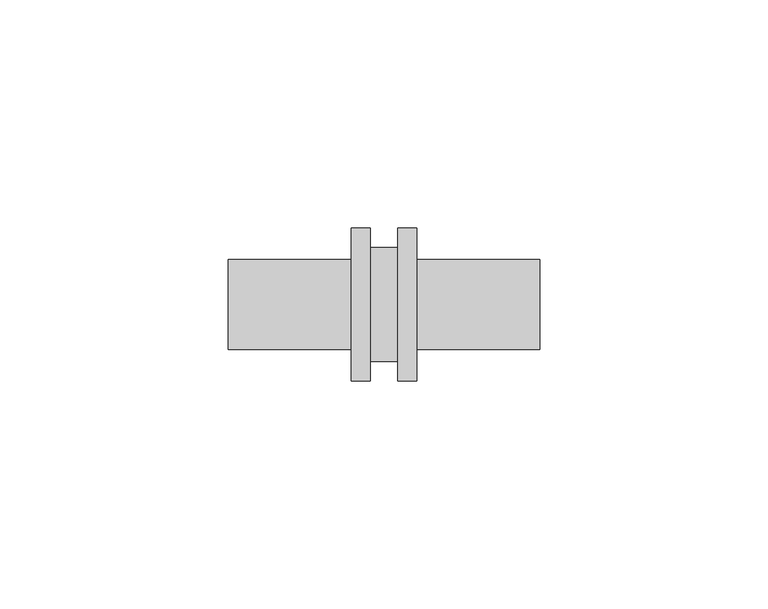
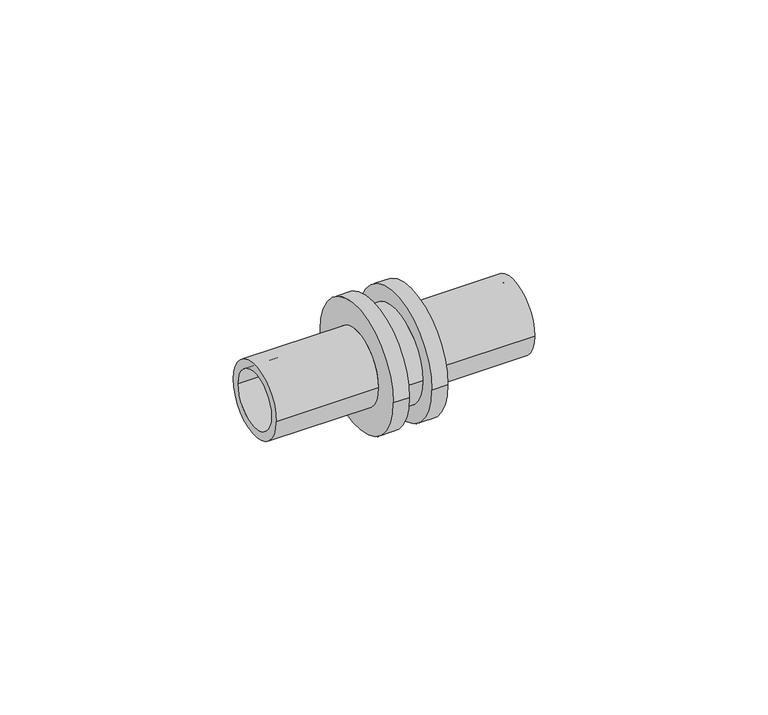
"""IFC4 building model written with IfcOpenShell, lengths in millimetres: pipe fitting geometry, RAUTITAN_Union_LX : RTI LX U DE."""

import ifcopenshell
import ifcopenshell.guid

model = None  # the IFC model being written
_history = None  # IfcOwnerHistory: only IFC2X3 demands one
_inside = {}  # id of a spatial element -> (the spatial element, [elements in it])
_under = {}  # id of a project, library or spatial element -> (it, [spatial elements below it])
_declared = {}  # id of a project -> (the project, [libraries it declares])
_typed = {}  # id of a type object -> (the type object, [elements of that type])
_made_of = {}  # id of a material, layer set ... -> (it, [elements and type objects made of it])


def new_model(schema):
    """Start an empty IFC model of exactly this schema.

    Asked for "IFC4X3", IfcOpenShell would pick the latest addendum, in which some entities
    have other attributes; the version numbers below select the first issue.
    IFC2X3 requires an IfcOwnerHistory on every rooted entity: one is made here for all.
    """
    global model, _history
    if schema == "IFC4X3":
        model = ifcopenshell.file(schema_version=(4, 3, 0, 0))
    else:
        model = ifcopenshell.file(schema=schema)
    _inside.clear()
    _under.clear()
    _declared.clear()
    _typed.clear()
    _made_of.clear()
    _history = None
    if model.schema == "IFC2X3":
        org = make("IfcOrganization", Name="unknown")
        user = make(
            "IfcPersonAndOrganization",
            ThePerson=make("IfcPerson", FamilyName="unknown"),
            TheOrganization=org,
        )
        app = make(
            "IfcApplication",
            ApplicationDeveloper=org,
            Version="unknown",
            ApplicationFullName="unknown",
            ApplicationIdentifier="unknown",
        )
        _history = make(
            "IfcOwnerHistory",
            OwningUser=user,
            OwningApplication=app,
            ChangeAction="ADDED",
            CreationDate=0,
        )
    return model


def make(cls, **values):
    """One entity of the class cls with the attributes given. An attribute that is None is left unset."""
    return model.create_entity(
        cls, **{name: value for name, value in values.items() if value is not None}
    )


def rooted(cls, **values):
    """An entity with a GlobalId (a new one), such as an element, a storey or a relation."""
    return make(cls, GlobalId=ifcopenshell.guid.new(), OwnerHistory=_history, **values)


def si_unit(unit_type, name, prefix=None):
    """IfcSIUnit, for example si_unit("LENGTHUNIT", "METRE", prefix="MILLI")."""
    return make("IfcSIUnit", UnitType=unit_type, Prefix=prefix, Name=name)


def assignment(units):
    """IfcUnitAssignment: the units of a project."""
    return None if units is None else make("IfcUnitAssignment", Units=units)


def point(xyz):
    """IfcCartesianPoint."""
    return None if xyz is None else make("IfcCartesianPoint", Coordinates=xyz)


def direction(xyz):
    """IfcDirection."""
    return None if xyz is None else make("IfcDirection", DirectionRatios=xyz)


def frame(location, z_axis=None, x_axis=None):
    """IfcAxis2Placement3D, a coordinate frame: its origin and axes. An axis left out is left unset."""
    return make(
        "IfcAxis2Placement3D",
        Location=point(location),
        Axis=direction(z_axis),
        RefDirection=direction(x_axis),
    )


def origin():
    """The frame at (0, 0, 0) with its axes left unset."""
    return frame((0.0, 0.0, 0.0))


def place(relative_to, where):
    """IfcLocalPlacement: puts the frame where relative to a parent placement (None: the world)."""
    return make(
        "IfcLocalPlacement", PlacementRelTo=relative_to, RelativePlacement=where
    )


def context(
    kind, dimensions, precision=None, world=None, true_north=None, identifier=None
):
    """IfcGeometricRepresentationContext, for example the 3D "Model" context."""
    return make(
        "IfcGeometricRepresentationContext",
        ContextIdentifier=identifier,
        ContextType=kind,
        CoordinateSpaceDimension=dimensions,
        Precision=precision,
        WorldCoordinateSystem=world,
        TrueNorth=true_north,
    )


def project(units=None, contexts=None):
    """IfcProject with its units and contexts."""
    return rooted(
        "IfcProject",
        Name="project",
        RepresentationContexts=contexts,
        UnitsInContext=assignment(units),
    )


def spatial(cls, under=None, at=None, **own):
    """A site, building, storey or space (cls), placed at a placement, below another one or the project."""
    s = rooted(cls, ObjectPlacement=at, **own)
    if under is not None:
        _under.setdefault(under.id(), (under, []))[1].append(s)
    return s


def polyline(points):
    """IfcPolyline through the points."""
    return make("IfcPolyline", Points=[point(p) for p in points])


def circle_curve(where, radius):
    """IfcCircle in the frame where."""
    return make("IfcCircle", Position=where, Radius=radius)


def shape(context_of_items, identifier, shape_type, items):
    """IfcShapeRepresentation: the items that make up one representation, for example the "Body"."""
    return make(
        "IfcShapeRepresentation",
        ContextOfItems=context_of_items,
        RepresentationIdentifier=identifier,
        RepresentationType=shape_type,
        Items=items,
    )


def source(mapping_origin, context_of_items, identifier, shape_type, items):
    """IfcRepresentationMap: a shape defined once, which mapped items show again and again."""
    return make(
        "IfcRepresentationMap",
        MappingOrigin=mapping_origin,
        MappedRepresentation=shape(context_of_items, identifier, shape_type, items),
    )


def transform(
    local_origin,
    x_axis=None,
    y_axis=None,
    z_axis=None,
    scale=None,
    scale2=None,
    scale3=None,
    uniform=True,
):
    """IfcCartesianTransformationOperator3D, or its non-uniform kind. x_axis, y_axis, z_axis: its Axis1, 2, 3."""
    if uniform:
        return make(
            "IfcCartesianTransformationOperator3D",
            Axis1=direction(x_axis),
            Axis2=direction(y_axis),
            LocalOrigin=point(local_origin),
            Scale=scale,
            Axis3=direction(z_axis),
        )
    return make(
        "IfcCartesianTransformationOperator3DnonUniform",
        Axis1=direction(x_axis),
        Axis2=direction(y_axis),
        LocalOrigin=point(local_origin),
        Scale=scale,
        Axis3=direction(z_axis),
        Scale2=scale2,
        Scale3=scale3,
    )


def mapped(mapping_source, mapping_target):
    """IfcMappedItem: shows the shape of a source again, moved by a transform."""
    return make(
        "IfcMappedItem", MappingSource=mapping_source, MappingTarget=mapping_target
    )


def made_of(thing, what):
    """Note that an element or type object is made of a material, layer set ...; save() writes the relation."""
    if what is not None:
        _made_of.setdefault(what.id(), (what, []))[1].append(thing)
    return thing


def element(
    cls,
    number,
    at=None,
    inside=None,
    cuts=None,
    type_object=None,
    material=None,
    context=None,
    identifier="Body",
    shape_type=None,
    held_by="IfcProductDefinitionShape",
    body=None,
    shapes=None,
    **own,
):
    """One element of the class cls, such as IfcWall. Its Tag is "e" and its number.

    at: its placement. inside: the storey or other place that contains it. cuts: it is an
    opening in that element (IfcRelVoidsElement). A single representation is given by context,
    identifier, shape_type and body (its items); several are given by shapes. held_by: the class
    of the entity that holds the representations. save() writes the other relations.
    """
    e = rooted(cls, Tag="e%d" % number, ObjectPlacement=at, **own)
    if body is not None:
        shapes = [shape(context, identifier, shape_type, body)]
    if shapes is not None:
        e.Representation = make(held_by, Representations=shapes)
    if inside is not None:
        _inside.setdefault(inside.id(), (inside, []))[1].append(e)
    if cuts is not None:
        rooted(
            "IfcRelVoidsElement", RelatingBuildingElement=cuts, RelatedOpeningElement=e
        )
    if type_object is not None:
        _typed.setdefault(type_object.id(), (type_object, []))[1].append(e)
    return made_of(e, material)


def aggregate(whole, parts):
    """IfcRelAggregates: a whole, such as a stair, and the parts it consists of."""
    return rooted("IfcRelAggregates", RelatingObject=whole, RelatedObjects=parts)


def save(model, path):
    """Write the relations noted so far, then the file.

    IfcRelAggregates (storeys below a building ...), IfcRelContainedInSpatialStructure (elements
    in a storey), IfcRelDefinesByType, IfcRelAssociatesMaterial and IfcRelDeclares: one each for
    every whole, place, type object, material and project.
    """
    for whole, parts in _under.values():
        aggregate(whole, parts)
    for where, things in _inside.values():
        rooted(
            "IfcRelContainedInSpatialStructure",
            RelatedElements=things,
            RelatingStructure=where,
        )
    for kind, things in _typed.values():
        rooted("IfcRelDefinesByType", RelatedObjects=things, RelatingType=kind)
    for what, things in _made_of.values():
        rooted("IfcRelAssociatesMaterial", RelatedObjects=things, RelatingMaterial=what)
    for by, libraries in _declared.values():
        rooted("IfcRelDeclares", RelatingContext=by, RelatedDefinitions=libraries)
    model.write(path)


def plane_surface(at):
    """IfcPlane: the flat surface through the origin of the frame at, square to its z axis."""
    return make("IfcPlane", Position=at)


def cylinder_surface(at, radius):
    """IfcCylindricalSurface: all points at the distance radius from the z axis of the frame at."""
    return make("IfcCylindricalSurface", Position=at, Radius=radius)


def revolved_surface(curve, axis_point, axis_direction):
    """IfcSurfaceOfRevolution: the curve turned about the line through axis_point along axis_direction."""
    return make(
        "IfcSurfaceOfRevolution",
        SweptCurve=make("IfcArbitraryOpenProfileDef", ProfileType="CURVE", Curve=curve),
        AxisPosition=make("IfcAxis1Placement", Location=point(axis_point), Axis=direction(axis_direction)),
    )


def advanced_brep(points, edges, surfaces, faces):
    """IfcAdvancedBrep: a solid bounded by faces that lie on surfaces and meet in shared edges.

    An edge is (start, end): straight between two places in points (the first is 0);
    or (start, end, curve); or (start, end, curve, False) where it runs against its curve.
    A face is (place in surfaces, loops), or (place, loops, False) where it looks against
    its surface's normal. A loop lists edges by number (the first is 1), with a minus sign
    where the edge is run from its end to its start. The first loop is the outer one.
    """
    corners = [point(p) for p in points]
    vertices = [make("IfcVertexPoint", VertexGeometry=c) for c in corners]
    made = []
    for start, end, *more in edges:
        made.append(
            make(
                "IfcEdgeCurve",
                EdgeStart=vertices[start],
                EdgeEnd=vertices[end],
                EdgeGeometry=more[0] if more else make("IfcPolyline", Points=[corners[start], corners[end]]),
                SameSense=more[1] if len(more) > 1 else True,
            )
        )
    hull = []
    for where, loops, *sense in faces:
        bounds = []
        for j, loop in enumerate(loops):
            ring = [make("IfcOrientedEdge", EdgeElement=made[abs(k) - 1], Orientation=k > 0) for k in loop]
            bounds.append(
                make(
                    "IfcFaceOuterBound" if j == 0 else "IfcFaceBound",
                    Bound=make("IfcEdgeLoop", EdgeList=ring),
                    Orientation=True,
                )
            )
        hull.append(make("IfcAdvancedFace", Bounds=bounds, FaceSurface=surfaces[where], SameSense=sense[0] if sense else True))
    return make("IfcAdvancedBrep", Outer=make("IfcClosedShell", CfsFaces=hull))


def pipe_fitting_88740129(model_context):
    return source(origin(), model_context, "Body", "AdvancedBrep", [
        advanced_brep(
        [(-34.2, 7.6, 0.0), (-34.2, -7.6, 0.0), (34.2, -7.6, 0.0), (34.2, 7.6, 0.0), (-7.2, 9.9, 0.0), (-7.2, -9.9, 0.0), (-34.2, -9.9, 0.0), (-34.2, 9.9, 0.0), (-3.0, 16.8, 0.0), (-3.0, -16.8, 0.0), (-7.2, -16.8, 0.0), (-7.2, 16.8, 0.0), (3.0, 12.5, 0.0), (3.0, -12.5, 0.0), (-3.0, -12.5, 0.0), (-3.0, 12.5, 0.0), (7.2, 16.8, 0.0), (7.2, -16.8, 0.0), (3.0, -16.8, 0.0), (3.0, 16.8, 0.0), (34.2, 9.9, 0.0), (34.2, -9.9, 0.0), (7.2, -9.9, 0.0), (7.2, 9.9, 0.0)],
        [
            (0, 1, circle_curve(frame((-34.2, 0.0, 0.0), z_axis=(-1.0, 0.0, 0.0), x_axis=(0.0, -1.0, 0.0)), 7.6)),
            (1, 2),
            (2, 3, circle_curve(frame((34.2, 0.0, 0.0), z_axis=(1.0, 0.0, 0.0), x_axis=(0.0, -1.0, 0.0)), 7.6)),
            (3, 0),
            (4, 5, circle_curve(frame((-7.2, 0.0, 0.0), z_axis=(-1.0, 0.0, 0.0), x_axis=(0.0, -1.0, 0.0)), 9.9)),
            (5, 6),
            (6, 7, circle_curve(frame((-34.2, 0.0, 0.0), z_axis=(1.0, 0.0, 0.0), x_axis=(0.0, -1.0, 0.0)), 9.9)),
            (7, 4),
            (8, 9, circle_curve(frame((-3.0, 0.0, 0.0), z_axis=(-1.0, 0.0, 0.0), x_axis=(0.0, -1.0, 0.0)), 16.8)),
            (9, 10),
            (10, 11, circle_curve(frame((-7.2, 0.0, 0.0), z_axis=(1.0, 0.0, 0.0), x_axis=(0.0, -1.0, 0.0)), 16.8)),
            (11, 8),
            (12, 13, circle_curve(frame((3.0, 0.0, 0.0), z_axis=(-1.0, 0.0, 0.0), x_axis=(0.0, -1.0, 0.0)), 12.5)),
            (13, 14),
            (14, 15, circle_curve(frame((-3.0, 0.0, 0.0), z_axis=(1.0, 0.0, 0.0), x_axis=(0.0, -1.0, 0.0)), 12.5)),
            (15, 12),
            (16, 17, circle_curve(frame((7.2, 0.0, 0.0), z_axis=(-1.0, 0.0, 0.0), x_axis=(0.0, -1.0, 0.0)), 16.8)),
            (17, 18),
            (18, 19, circle_curve(frame((3.0, 0.0, 0.0), z_axis=(1.0, 0.0, 0.0), x_axis=(0.0, -1.0, 0.0)), 16.8)),
            (19, 16),
            (20, 21, circle_curve(frame((34.2, 0.0, 0.0), z_axis=(-1.0, 0.0, 0.0), x_axis=(0.0, -1.0, 0.0)), 9.9)),
            (21, 22),
            (22, 23, circle_curve(frame((7.2, 0.0, 0.0), z_axis=(1.0, 0.0, 0.0), x_axis=(0.0, -1.0, 0.0)), 9.9)),
            (23, 20),
            (1, 0, circle_curve(frame((-34.2, 0.0, 0.0), z_axis=(-1.0, 0.0, 0.0), x_axis=(0.0, 1.0, 0.0)), 7.6)),
            (3, 2, circle_curve(frame((34.2, 0.0, 0.0), z_axis=(1.0, 0.0, 0.0), x_axis=(0.0, 1.0, 0.0)), 7.6)),
            (6, 7, circle_curve(frame((-34.2, 0.0, 0.0), z_axis=(-1.0, 0.0, 0.0), x_axis=(0.0, 1.0, 0.0)), 9.9)),
            (5, 4, circle_curve(frame((-7.2, 0.0, 0.0), z_axis=(-1.0, 0.0, 0.0), x_axis=(0.0, 1.0, 0.0)), 9.9)),
            (10, 11, circle_curve(frame((-7.2, 0.0, 0.0), z_axis=(-1.0, 0.0, 0.0), x_axis=(0.0, 1.0, 0.0)), 16.8)),
            (9, 8, circle_curve(frame((-3.0, 0.0, 0.0), z_axis=(-1.0, 0.0, 0.0), x_axis=(0.0, 1.0, 0.0)), 16.8)),
            (14, 15, circle_curve(frame((-3.0, 0.0, 0.0), z_axis=(-1.0, 0.0, 0.0), x_axis=(0.0, 1.0, 0.0)), 12.5)),
            (13, 12, circle_curve(frame((3.0, 0.0, 0.0), z_axis=(-1.0, 0.0, 0.0), x_axis=(0.0, 1.0, 0.0)), 12.5)),
            (18, 19, circle_curve(frame((3.0, 0.0, 0.0), z_axis=(-1.0, 0.0, 0.0), x_axis=(0.0, 1.0, 0.0)), 16.8)),
            (17, 16, circle_curve(frame((7.2, 0.0, 0.0), z_axis=(-1.0, 0.0, 0.0), x_axis=(0.0, 1.0, 0.0)), 16.8)),
            (22, 23, circle_curve(frame((7.2, 0.0, 0.0), z_axis=(-1.0, 0.0, 0.0), x_axis=(0.0, 1.0, 0.0)), 9.9)),
            (21, 20, circle_curve(frame((34.2, 0.0, 0.0), z_axis=(-1.0, 0.0, 0.0), x_axis=(0.0, 1.0, 0.0)), 9.9)),
        ],
        [
            revolved_surface(polyline([(34.2, -7.6, 0.0), (-34.2, -7.6, 0.0)]), (0.0, 0.0, 0.0), (1.0, 0.0, 0.0)),
            cylinder_surface(frame((0.0, 0.0, 0.0), z_axis=(1.0, 0.0, 0.0), x_axis=(0.0, -1.0, 0.0)), 9.9),
            cylinder_surface(frame((0.0, 0.0, 0.0), z_axis=(1.0, 0.0, 0.0), x_axis=(0.0, -1.0, 0.0)), 16.8),
            cylinder_surface(frame((0.0, 0.0, 0.0), z_axis=(1.0, 0.0, 0.0), x_axis=(0.0, -1.0, 0.0)), 12.5),
            revolved_surface(polyline([(34.2, 7.6, 0.0), (-34.2, 7.6, 0.0)]), (0.0, 0.0, 0.0), (1.0, 0.0, 0.0)),
            plane_surface(frame((-34.2, 0.0, 0.0), z_axis=(-1.0, 0.0, 0.0), x_axis=(0.0, 1.0, 0.0))),
            cylinder_surface(frame((0.0, 0.0, 0.0), z_axis=(1.0, 0.0, 0.0), x_axis=(0.0, 1.0, 0.0)), 9.9),
            plane_surface(frame((-7.2, 0.0, 0.0), z_axis=(-1.0, 0.0, 0.0), x_axis=(0.0, 1.0, 0.0))),
            cylinder_surface(frame((0.0, 0.0, 0.0), z_axis=(1.0, 0.0, 0.0), x_axis=(0.0, 1.0, 0.0)), 16.8),
            plane_surface(frame((-3.0, 0.0, 0.0), z_axis=(1.0, 0.0, 0.0), x_axis=(0.0, 1.0, 0.0))),
            cylinder_surface(frame((0.0, 0.0, 0.0), z_axis=(1.0, 0.0, 0.0), x_axis=(0.0, 1.0, 0.0)), 12.5),
            plane_surface(frame((3.0, 0.0, 0.0), z_axis=(-1.0, 0.0, 0.0), x_axis=(0.0, 1.0, 0.0))),
            plane_surface(frame((7.2, 0.0, 0.0), z_axis=(1.0, 0.0, 0.0), x_axis=(0.0, 1.0, 0.0))),
            plane_surface(frame((34.2, 0.0, 0.0), z_axis=(1.0, 0.0, 0.0), x_axis=(0.0, 1.0, 0.0))),
        ],
        [
            (0, [[1, 2, 3, 4]]),
            (1, [[5, 6, 7, 8]]),
            (2, [[9, 10, 11, 12]]),
            (3, [[13, 14, 15, 16]]),
            (2, [[17, 18, 19, 20]]),
            (1, [[21, 22, 23, 24]]),
            (4, [[25, -4, 26, -2]]),
            (5, [[27, -7], [-25, -1]]),
            (6, [[28, -8, -27, -6]]),
            (7, [[29, -11], [-28, -5]]),
            (8, [[30, -12, -29, -10]]),
            (9, [[-30, -9], [31, -15]]),
            (10, [[32, -16, -31, -14]]),
            (11, [[33, -19], [-32, -13]]),
            (8, [[34, -20, -33, -18]]),
            (12, [[-34, -17], [35, -23]]),
            (6, [[36, -24, -35, -22]]),
            (13, [[-36, -21], [-26, -3]]),
        ],
    ),
    ])


if __name__ == "__main__":
    model = new_model("IFC4")
    model_context = context("Model", 3, world=origin())
    ifc_project = project(units=[si_unit("LENGTHUNIT", "METRE", prefix="MILLI")], contexts=[model_context])
    site = spatial("IfcSite", under=ifc_project)
    building = spatial("IfcBuilding", under=site)
    placement = place(None, origin())
    pipe_fitting_shape = pipe_fitting_88740129(model_context)
    element("IfcPipeFitting", 1, ObjectType="RAUTITAN_Union_LX : RTI LX U DE", at=placement, inside=building, context=model_context, shape_type="MappedRepresentation", body=[
        mapped(pipe_fitting_shape, transform((0.0, 0.0, 0.0), x_axis=(1.0, 0.0, 0.0), y_axis=(0.0, 1.0, 0.0), z_axis=(0.0, 0.0, 1.0))),
    ])
    save(model, "model.ifc")
